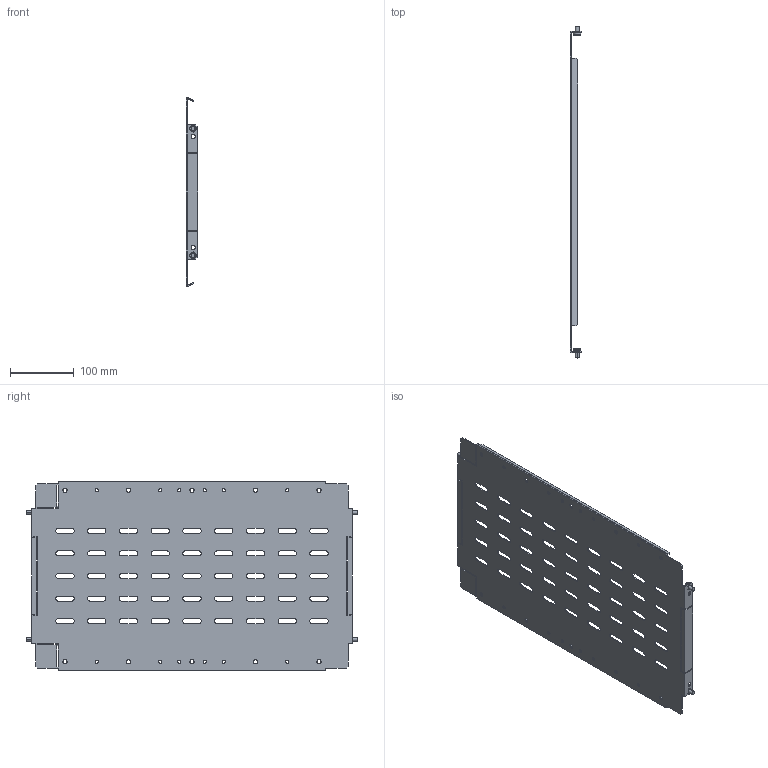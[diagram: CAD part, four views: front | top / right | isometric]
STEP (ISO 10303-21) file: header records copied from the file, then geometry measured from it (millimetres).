
FILE_DESCRIPTION (( 'STEP AP214' ), '1' );
FILE_NAME ('FO-00-SWV-030-060 Ïåðåãîðîäêà ñåêöèîíèðîâàíèÿ âåðòèêàëüíàÿ 300x600 ìì.STEP', '2025-08-11T08:44:42', ( '' ), ( '' ), 'SwSTEP 2.0', 'SolidWorks 2023', '' );
FILE_SCHEMA (( 'AUTOMOTIVE_DESIGN' ));
Length unit declared in the file: millimetre
Products named in the file (1): FO-00-SWV-030-060 Перегородка секционирования вертикальная 300x600 мм
Bounding box: 17.5 x 522.5 x 298.93 mm (x, y, z)
Volume: 232506.8 mm3; surface area: 317982.2 mm2
Topology: 1 solids, 1 shells, 448 faces, 1290 edges, 852 vertices
Faces by surface type: plane 258, cylinder 166, torus 16, cone 8
Entity records: 15077 total; most frequent: CARTESIAN_POINT 2591, ORIENTED_EDGE 2580, DIRECTION 2560, EDGE_CURVE 1290, LINE 918, VECTOR 918, VERTEX_POINT 852, AXIS2_PLACEMENT_3D 821
